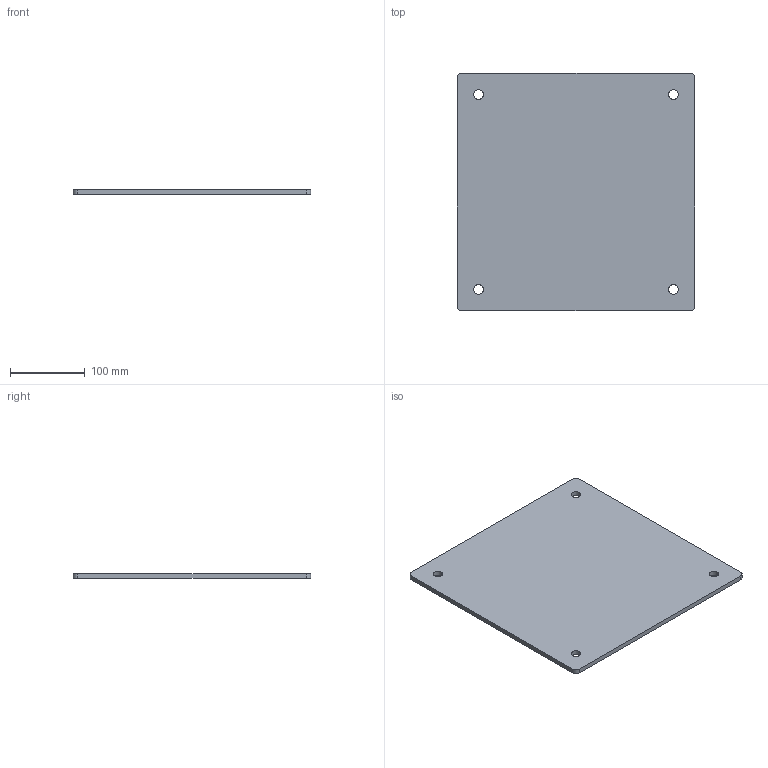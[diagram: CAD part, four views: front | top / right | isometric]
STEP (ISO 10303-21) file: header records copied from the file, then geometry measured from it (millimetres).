
FILE_DESCRIPTION (( 'STEP AP214' ), '1' );
FILE_NAME ('TVL-920.STEP', '2019-05-07T14:25:23', ( '' ), ( '' ), 'SwSTEP 2.0', 'SolidWorks 2013', '' );
FILE_SCHEMA (( 'AUTOMOTIVE_DESIGN' ));
Length unit declared in the file: inch
Products named in the file (1): TVL-920
Bounding box: 317.5 x 317.5 x 6.35 mm (x, y, z)
Volume: 636682.3 mm3; surface area: 209538.5 mm2
Topology: 1 solids, 1 shells, 18 faces, 48 edges, 32 vertices
Faces by surface type: cylinder 12, plane 6
Entity records: 632 total; most frequent: DIRECTION 110, CARTESIAN_POINT 99, ORIENTED_EDGE 96, EDGE_CURVE 48, AXIS2_PLACEMENT_3D 43, VERTEX_POINT 32, EDGE_LOOP 26, VECTOR 24
